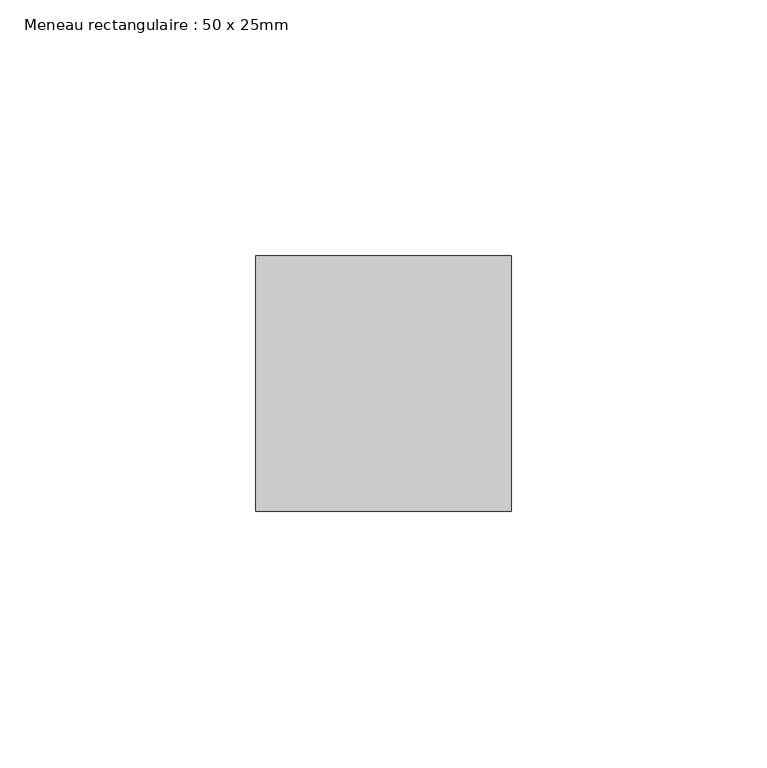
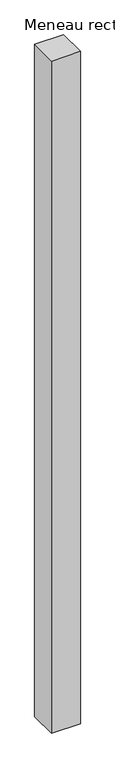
"""IFC4 building model written with IfcOpenShell, lengths in millimetres: member geometry, Meneau rectangulaire : 50 x 25mm."""

from ifc_helpers import new_model, si_unit, frame, origin, place, context, project, spatial, polyline, outline, extrude, source, transform, mapped, element, save


def meneau_rectangulaire_50_x_25mm_53d2d44f(model_context):
    return source(origin(), model_context, "Body", "SweptSolid", [
        extrude(outline(polyline([(25.0, 0.0), (25.0, -50.0), (-25.0, -50.0), (-25.0, 0.0), (25.0, 0.0)])), frame((0.0, 0.0, -1228.1685397), z_axis=(0.0, 0.0, 1.0), x_axis=(1.0, 0.0, 0.0)), (0.0, 0.0, 1.0), 1228.1685397),
    ])


if __name__ == "__main__":
    model = new_model("IFC4")
    model_context = context("Model", 3, world=origin())
    ifc_project = project(units=[si_unit("LENGTHUNIT", "METRE", prefix="MILLI")], contexts=[model_context])
    site = spatial("IfcSite", under=ifc_project)
    building = spatial("IfcBuilding", under=site)
    placement = place(None, origin())
    meneau_rectangulaire_50_x_25mm_shape = meneau_rectangulaire_50_x_25mm_53d2d44f(model_context)
    element("IfcMember", 1, ObjectType="Meneau rectangulaire : 50 x 25mm", at=placement, inside=building, context=model_context, shape_type="MappedRepresentation", body=[
        mapped(meneau_rectangulaire_50_x_25mm_shape, transform((0.0, 0.0, 0.0), x_axis=(1.0, 0.0, 0.0), y_axis=(0.0, 1.0, 0.0), z_axis=(0.0, 0.0, 1.0))),
    ])
    save(model, "model.ifc")
